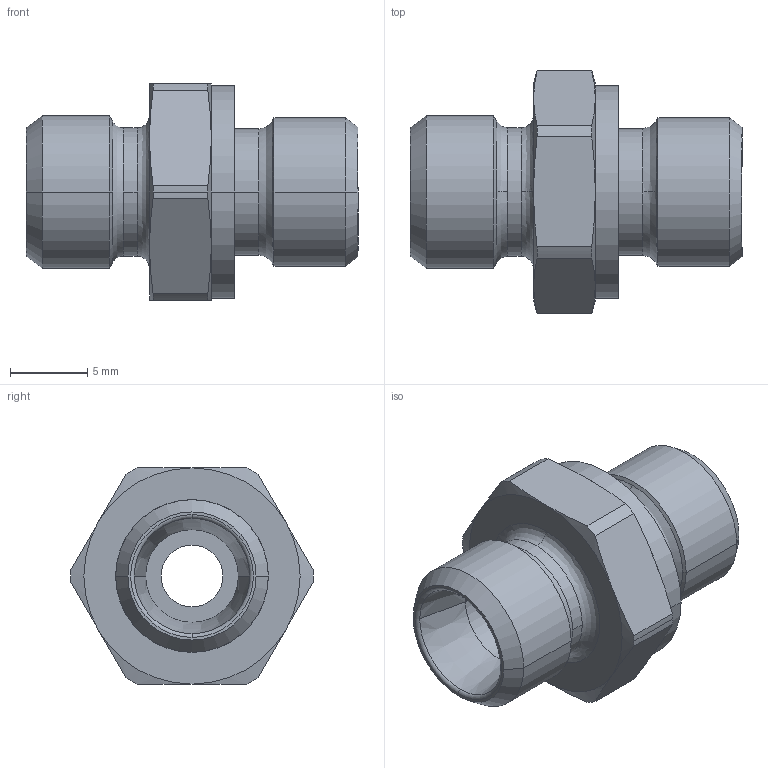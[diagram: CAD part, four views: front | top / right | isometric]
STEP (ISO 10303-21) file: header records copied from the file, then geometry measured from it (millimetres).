
FILE_DESCRIPTION((''),'2;1');
FILE_NAME('100502.stp','2007-10-30T14:18:32',(''),(''),'AutoCAD STEP 2000i','AutoCAD 2000i',', , ');
FILE_SCHEMA(('CONFIG_CONTROL_DESIGN'));
Length unit declared in the file: millimetre
Products named in the file (2): 100502.0; CHIAVE SMUSSATA#0
Assembly tree (1 placements, depth 2):
  100502.0
    CHIAVE SMUSSATA#0
Bounding box: 21.5 x 15.7 x 14 mm (x, y, z)
Volume: 1526.6 mm3; surface area: 1382.7 mm2
Topology: 1 solids, 1 shells, 75 faces, 185 edges, 117 vertices
Faces by surface type: cylinder 24, cone 24, plane 13, bspline 12, torus 2
Entity records: 2835 total; most frequent: CARTESIAN_POINT 955, DIRECTION 410, ORIENTED_EDGE 370, EDGE_CURVE 185, AXIS2_PLACEMENT_3D 184, CIRCLE 119, VERTEX_POINT 117, EDGE_LOOP 82
